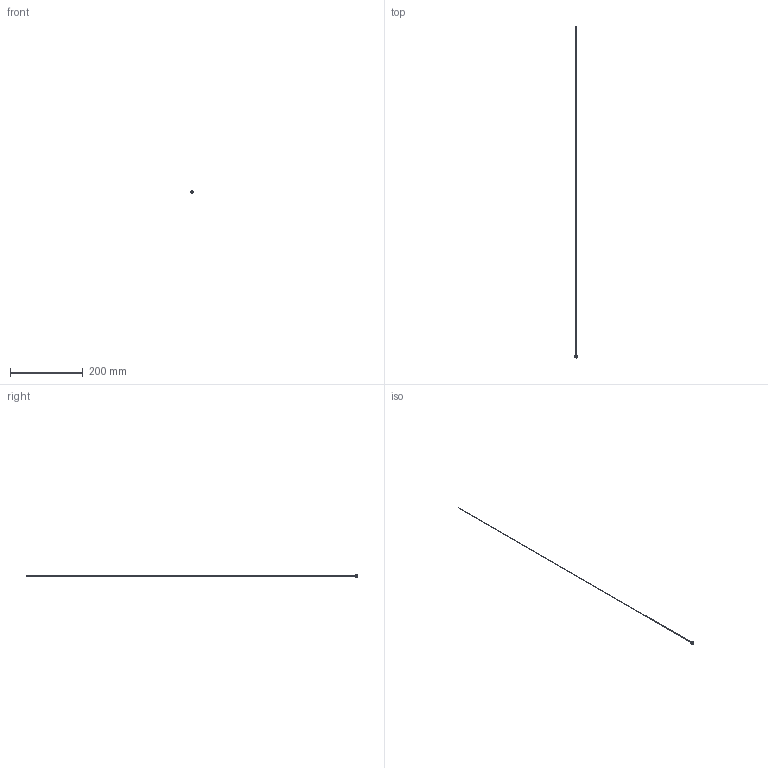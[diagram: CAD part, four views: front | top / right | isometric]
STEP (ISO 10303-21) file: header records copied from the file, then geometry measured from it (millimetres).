
FILE_DESCRIPTION(/* description */ (''),/* implementation_level */ '2;1');
FILE_NAME(/* name */ 'C:/Users/drich/Desktop/cad/Cascades/Jet Cool/Components/Inner Tubes/PT16-050/PT16-050-36 v1.step',/* time_stamp */ '2020-01-10T15:10:31-06:00',/* author */ (''),/* organization */ (''),/* preprocessor_version */ 'ST-DEVELOPER v18',/* originating_system */ 'Autodesk Translation Framework v8.12.0.6',/* authorisation */ '');
FILE_SCHEMA (('AUTOMOTIVE_DESIGN { 1 0 10303 214 3 1 1 }'));
Length unit declared in the file: inch
Products named in the file (1): PT16-050-36
Bounding box: 7.62 x 914.4 x 7.62 mm (x, y, z)
Volume: 580.4 mm3; surface area: 6960.7 mm2
Topology: 1 solids, 1 shells, 19 faces, 48 edges, 34 vertices
Faces by surface type: plane 11, cylinder 4, torus 2, cone 2
Full cylindrical faces by diameter (mm): 1.067 x1, 1.27 x1, 4.724 x1, 7.616 x1
Entity records: 633 total; most frequent: DIRECTION 112, CARTESIAN_POINT 102, ORIENTED_EDGE 96, EDGE_CURVE 48, AXIS2_PLACEMENT_3D 44, VERTEX_POINT 34, CIRCLE 24, EDGE_LOOP 24
